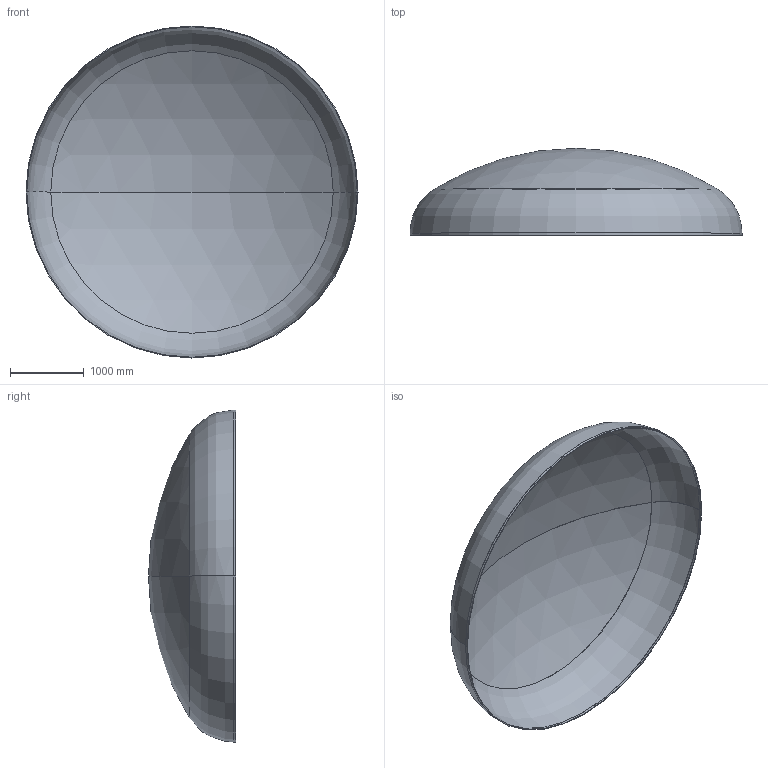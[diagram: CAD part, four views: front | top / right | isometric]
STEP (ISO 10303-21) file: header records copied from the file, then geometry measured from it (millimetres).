
FILE_DESCRIPTION (( 'STEP AP203' ), '1' );
FILE_NAME ('DIN 28013 Korbbogenform_-_Boden DIN 28013 - 4500 x 30 - I - s=10.step', '2016-07-01T23:01:21', ( '' ), ( '' ), 'SwSTEP 2.0', 'SolidWorks 2013', '' );
FILE_SCHEMA (( 'CONFIG_CONTROL_DESIGN' ));
Length unit declared in the file: millimetre
Products named in the file (1): DIN 28013 Korbbogenform_-_Boden DIN 28013 - 4500 x 30 - I - s=10
Bounding box: 4500 x 1179.92 x 4500 mm (x, y, z)
Volume: 224000001.9 mm3; surface area: 44941248.9 mm2
Topology: 1 solids, 1 shells, 13 faces, 24 edges, 14 vertices
Faces by surface type: torus 4, cylinder 4, sphere 4, plane 1
Entity records: 407 total; most frequent: DIRECTION 72, CARTESIAN_POINT 52, ORIENTED_EDGE 48, AXIS2_PLACEMENT_3D 34, EDGE_CURVE 24, CIRCLE 20, VERTEX_POINT 14, EDGE_LOOP 14
